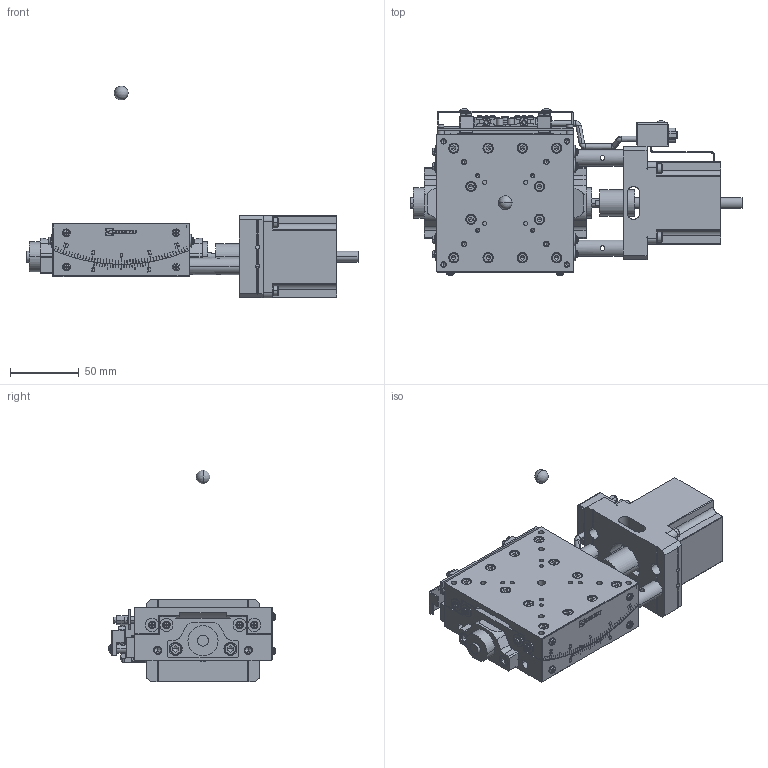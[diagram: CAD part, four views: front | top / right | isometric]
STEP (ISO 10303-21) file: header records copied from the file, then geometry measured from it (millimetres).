
FILE_DESCRIPTION( (''), '2;1');
FILE_NAME ('MVSA10A-RT01.stp','2021-03-16T10:53:16',(''),(''),'spGate 15.6.6','','');
FILE_SCHEMA (('AUTOMOTIVE_DESIGN'));
Length unit declared in the file: millimetre
Products named in the file (4): Assembly; MVSA10A-RT01-prt0; MVSA10A-RT01-prt1; MVSA10A-RT01-prt2
Assembly tree (3 placements, depth 2):
  Assembly
    MVSA10A-RT01-prt0
    MVSA10A-RT01-prt1
    MVSA10A-RT01-prt2
Bounding box: 242.3 x 121.67 x 154.5 mm (x, y, z)
Volume: 669768.8 mm3; surface area: 142247.5 mm2
Topology: 3 solids, 3 shells, 3721 faces, 9417 edges, 5824 vertices
Faces by surface type: plane 2147, cylinder 970, bspline 531, sphere 73
Entity records: 190988 total; most frequent: CARTESIAN_POINT 30692, ORIENTED_EDGE 18494, DIRECTION 17063, COLOUR_RGB 12971, PRESENTATION_STYLE_ASSIGNMENT 12971, STYLED_ITEM 12971, EDGE_CURVE 9247, DRAUGHTING_PRE_DEFINED_CURVE_FONT 9247
